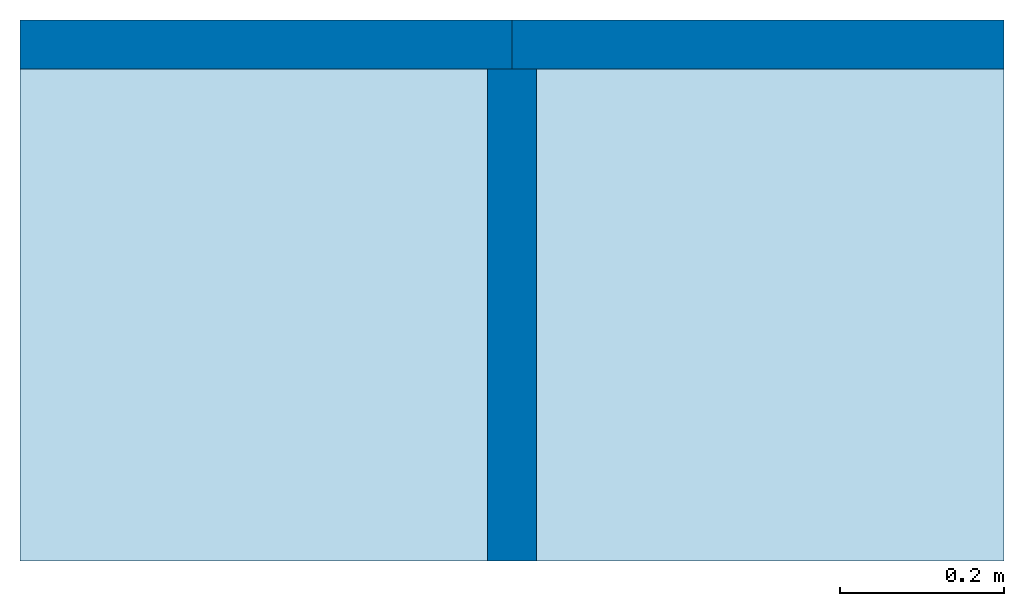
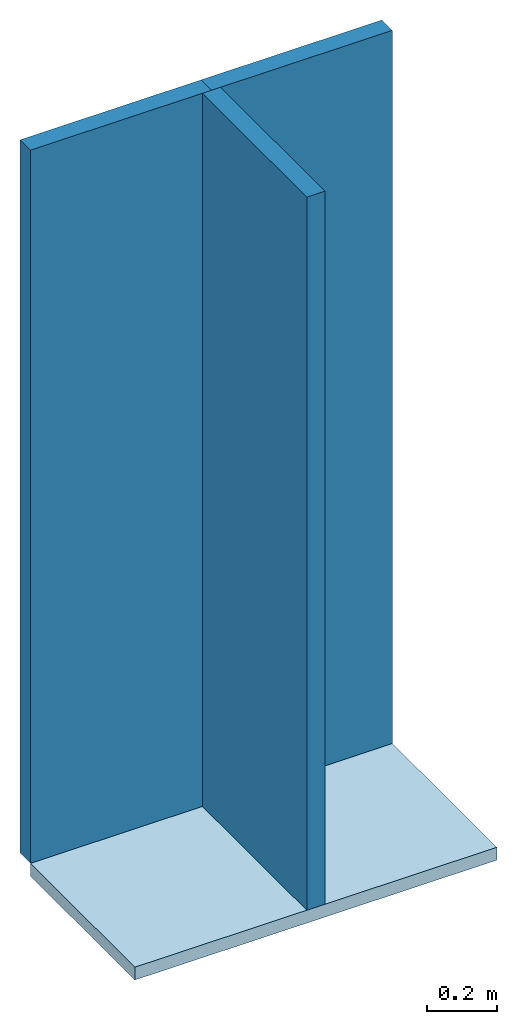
# One storey: 3 walls, 1 slab.
"""IFC2X3 building model written with IfcOpenShell, lengths in millimetres."""

from ifc_helpers import new_model, entity, si_unit, converted_unit, derived_unit, direction, frame, frame_2d, origin, place, context, subcontext, project, spatial, rectangle, extrude, material, layer, layer_set, layer_usage, type_object, element, save


model = new_model("IFC2X3")

# Units and contexts
model_context = context("Model", 3, precision=0.01, world=origin(), true_north=direction((6.12303176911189e-17, 1.0)))
context_of_model = context(None, 3, precision=0.01, world=origin(), true_north=direction((6.12303176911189e-17, 1.0)))
body_context = subcontext(model_context, "Body", "Model", "MODEL_VIEW")
ifc_project = project(units=[si_unit("LENGTHUNIT", "METRE", prefix="MILLI"), si_unit("AREAUNIT", "SQUARE_METRE"), si_unit("VOLUMEUNIT", "CUBIC_METRE"), converted_unit("PLANEANGLEUNIT", "DEGREE", entity("IfcRatioMeasure", 0.0174532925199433), si_unit("PLANEANGLEUNIT", "RADIAN"), dimensions=[0, 0, 0, 0, 0, 0, 0]), si_unit("MASSUNIT", "GRAM", prefix="KILO"), derived_unit("MASSDENSITYUNIT", [(si_unit("MASSUNIT", "GRAM", prefix="KILO"), 1), (si_unit("LENGTHUNIT", "METRE"), -3)]), derived_unit("MOMENTOFINERTIAUNIT", [(si_unit("LENGTHUNIT", "METRE"), 4)]), si_unit("TIMEUNIT", "SECOND"), si_unit("FREQUENCYUNIT", "HERTZ"), si_unit("THERMODYNAMICTEMPERATUREUNIT", "DEGREE_CELSIUS"), derived_unit("THERMALTRANSMITTANCEUNIT", [(si_unit("MASSUNIT", "GRAM", prefix="KILO"), 1), (si_unit("THERMODYNAMICTEMPERATUREUNIT", "KELVIN"), -1), (si_unit("TIMEUNIT", "SECOND"), -3)]), derived_unit("VOLUMETRICFLOWRATEUNIT", [(si_unit("LENGTHUNIT", "METRE"), 3), (si_unit("TIMEUNIT", "SECOND"), -1)]), si_unit("ELECTRICCURRENTUNIT", "AMPERE"), si_unit("ELECTRICVOLTAGEUNIT", "VOLT"), si_unit("POWERUNIT", "WATT"), si_unit("FORCEUNIT", "NEWTON", prefix="KILO"), si_unit("ILLUMINANCEUNIT", "LUX"), si_unit("LUMINOUSFLUXUNIT", "LUMEN"), si_unit("LUMINOUSINTENSITYUNIT", "CANDELA"), derived_unit("USERDEFINED", [(si_unit("MASSUNIT", "GRAM", prefix="KILO"), -1), (si_unit("LENGTHUNIT", "METRE"), -2), (si_unit("TIMEUNIT", "SECOND"), 3), (si_unit("LUMINOUSFLUXUNIT", "LUMEN"), 1)]), derived_unit("LINEARVELOCITYUNIT", [(si_unit("LENGTHUNIT", "METRE"), 1), (si_unit("TIMEUNIT", "SECOND"), -1)]), si_unit("PRESSUREUNIT", "PASCAL"), derived_unit("USERDEFINED", [(si_unit("LENGTHUNIT", "METRE"), -2), (si_unit("MASSUNIT", "GRAM", prefix="KILO"), 1), (si_unit("TIMEUNIT", "SECOND"), -2)]), derived_unit("LINEARFORCEUNIT", [(si_unit("MASSUNIT", "GRAM", prefix="KILO"), 1), (si_unit("LENGTHUNIT", "METRE"), 1), (si_unit("TIMEUNIT", "SECOND"), -2), (si_unit("LENGTHUNIT", "METRE"), -1)]), derived_unit("PLANARFORCEUNIT", [(si_unit("MASSUNIT", "GRAM", prefix="KILO"), 1), (si_unit("LENGTHUNIT", "METRE"), 1), (si_unit("TIMEUNIT", "SECOND"), -2), (si_unit("LENGTHUNIT", "METRE"), -2)])], contexts=[model_context, context_of_model])

# Site, building, storey
site_placement = place(None, origin())
site = spatial("IfcSite", under=ifc_project, at=site_placement, Name="Default", CompositionType="ELEMENT")
building_placement = place(site_placement, origin())
building = spatial("IfcBuilding", under=site, at=building_placement, CompositionType="ELEMENT")
storey_placement = place(building_placement, origin())
storey = spatial("IfcBuildingStorey", under=building, at=storey_placement, Name="Begane grond", CompositionType="ELEMENT", Elevation=0.0)

# Slab
ifc_material = material(Name="Knauf Insulation_Ecose® glaswol Ultracoustic")
ifc_layer_1 = layer(ifc_material, 45.0)
ifc_layer_set_1 = layer_set([ifc_layer_1], Name="Floor:NLRS_23_FL_Ultracoustic_60x600x12000mm")
ifc_layer_usage_1 = layer_usage(ifc_layer_set_1, "AXIS3", "POSITIVE", 0.0)
slab_type = type_object("IfcSlabType", Name="Floor:NLRS_23_FL_Ultracoustic_60x600x12000mm", PredefinedType="FLOOR", material=ifc_layer_set_1)
slab_placement = place(storey_placement, origin())
element("IfcSlab", 1, at=slab_placement, inside=storey, type_object=slab_type, material=ifc_layer_usage_1, Name="Floor:NLRS_23_FL_Ultracoustic_60x600x12000mm:2487", ObjectType="Floor:NLRS_23_FL_Ultracoustic_60x600x12000mm", PredefinedType="FLOOR", context=body_context, shape_type="SweptSolid", body=[
    extrude(rectangle(XDim=600.000000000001, YDim=1200.0, at=frame_2d((-2.8421709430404e-13, 0.0), x_axis=(1.0, 0.0))), frame((2527.07429667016, 4926.84541562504, 0.0), z_axis=(0.0, 0.0, -1.0), x_axis=(0.0, 1.0, 0.0)), (0.0, 0.0, 1.0), 45.0),
])

# Walls
ifc_layer_2 = layer(ifc_material, 60.0)
ifc_layer_set_2 = layer_set([ifc_layer_2], Name="Basic Wall:NLRS_22_WA_Ultracoustic_60x600x12000mm")
ifc_layer_usage_2 = layer_usage(ifc_layer_set_2, "AXIS2", "NEGATIVE", 30.0)
wall_type = type_object("IfcWallType", Name="Basic Wall:NLRS_22_WA_Ultracoustic_60x600x12000mm", PredefinedType="STANDARD", material=ifc_layer_set_2)
wall_1_placement = place(storey_placement, frame((1927.07429667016, 5256.84541562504, 0.0)))
element("IfcWallStandardCase", 2, at=wall_1_placement, inside=storey, type_object=wall_type, material=ifc_layer_usage_2, Name="Basic Wall:NLRS_22_WA_Ultracoustic_60x600x12000mm:2451", ObjectType="Basic Wall:NLRS_22_WA_Ultracoustic_60x600x12000mm", context=body_context, shape_type="SweptSolid", body=[
    extrude(rectangle(XDim=600.000000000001, YDim=59.9999999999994, at=frame_2d((300.0, -1.35003119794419e-13), x_axis=(-1.0, 0.0))), origin(), (0.0, 0.0, 1.0), 2500.0),
])
ifc_layer_usage_3 = layer_usage(ifc_layer_set_2, "AXIS2", "NEGATIVE", 30.0)
wall_2_placement = place(storey_placement, frame((2527.07429667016, 5256.84541562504, 0.0)))
element("IfcWallStandardCase", 3, at=wall_2_placement, inside=storey, type_object=wall_type, material=ifc_layer_usage_3, Name="Basic Wall:NLRS_22_WA_Ultracoustic_60x600x12000mm:2452", ObjectType="Basic Wall:NLRS_22_WA_Ultracoustic_60x600x12000mm", context=body_context, shape_type="SweptSolid", body=[
    extrude(rectangle(XDim=600.0, YDim=59.9999999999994, at=frame_2d((300.0, -1.35003119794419e-13), x_axis=(-1.0, 0.0))), origin(), (0.0, 0.0, 1.0), 2500.0),
])
ifc_layer_usage_4 = layer_usage(ifc_layer_set_2, "AXIS2", "NEGATIVE", 30.0)
wall_3_placement = place(storey_placement, frame((2527.07429667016, 5226.84541562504, 0.0), z_axis=(0.0, 0.0, 1.0), x_axis=(0.0, -1.0, 0.0)))
element("IfcWallStandardCase", 4, at=wall_3_placement, inside=storey, type_object=wall_type, material=ifc_layer_usage_4, Name="Basic Wall:NLRS_22_WA_Ultracoustic_60x600x12000mm:2453", ObjectType="Basic Wall:NLRS_22_WA_Ultracoustic_60x600x12000mm", context=body_context, shape_type="SweptSolid", body=[
    extrude(rectangle(XDim=599.999999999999, YDim=60.0000000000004, at=frame_2d((300.0, 1.77635683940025e-15), x_axis=(-1.0, 0.0))), origin(), (0.0, 0.0, 1.0), 2500.0),
])

save(model, "model.ifc")
